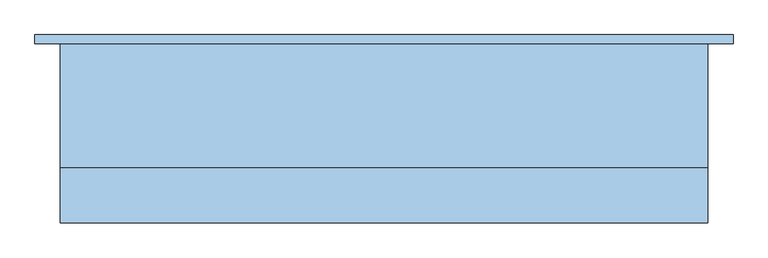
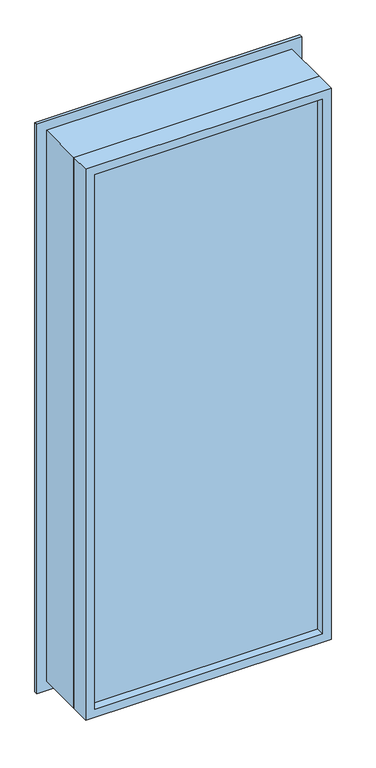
"""IFC4 building model written with IfcOpenShell, lengths in millimetres: window geometry, Vindu FK : 11X26 FK V2."""

import ifcopenshell
import ifcopenshell.guid

model = None  # the IFC model being written
_history = None  # IfcOwnerHistory: only IFC2X3 demands one
_inside = {}  # id of a spatial element -> (the spatial element, [elements in it])
_under = {}  # id of a project, library or spatial element -> (it, [spatial elements below it])
_declared = {}  # id of a project -> (the project, [libraries it declares])
_typed = {}  # id of a type object -> (the type object, [elements of that type])
_made_of = {}  # id of a material, layer set ... -> (it, [elements and type objects made of it])


def new_model(schema):
    """Start an empty IFC model of exactly this schema.

    Asked for "IFC4X3", IfcOpenShell would pick the latest addendum, in which some entities
    have other attributes; the version numbers below select the first issue.
    IFC2X3 requires an IfcOwnerHistory on every rooted entity: one is made here for all.
    """
    global model, _history
    if schema == "IFC4X3":
        model = ifcopenshell.file(schema_version=(4, 3, 0, 0))
    else:
        model = ifcopenshell.file(schema=schema)
    _inside.clear()
    _under.clear()
    _declared.clear()
    _typed.clear()
    _made_of.clear()
    _history = None
    if model.schema == "IFC2X3":
        org = make("IfcOrganization", Name="unknown")
        user = make(
            "IfcPersonAndOrganization",
            ThePerson=make("IfcPerson", FamilyName="unknown"),
            TheOrganization=org,
        )
        app = make(
            "IfcApplication",
            ApplicationDeveloper=org,
            Version="unknown",
            ApplicationFullName="unknown",
            ApplicationIdentifier="unknown",
        )
        _history = make(
            "IfcOwnerHistory",
            OwningUser=user,
            OwningApplication=app,
            ChangeAction="ADDED",
            CreationDate=0,
        )
    return model


def make(cls, **values):
    """One entity of the class cls with the attributes given. An attribute that is None is left unset."""
    return model.create_entity(
        cls, **{name: value for name, value in values.items() if value is not None}
    )


def rooted(cls, **values):
    """An entity with a GlobalId (a new one), such as an element, a storey or a relation."""
    return make(cls, GlobalId=ifcopenshell.guid.new(), OwnerHistory=_history, **values)


def si_unit(unit_type, name, prefix=None):
    """IfcSIUnit, for example si_unit("LENGTHUNIT", "METRE", prefix="MILLI")."""
    return make("IfcSIUnit", UnitType=unit_type, Prefix=prefix, Name=name)


def assignment(units):
    """IfcUnitAssignment: the units of a project."""
    return None if units is None else make("IfcUnitAssignment", Units=units)


def point(xyz):
    """IfcCartesianPoint."""
    return None if xyz is None else make("IfcCartesianPoint", Coordinates=xyz)


def direction(xyz):
    """IfcDirection."""
    return None if xyz is None else make("IfcDirection", DirectionRatios=xyz)


def frame(location, z_axis=None, x_axis=None):
    """IfcAxis2Placement3D, a coordinate frame: its origin and axes. An axis left out is left unset."""
    return make(
        "IfcAxis2Placement3D",
        Location=point(location),
        Axis=direction(z_axis),
        RefDirection=direction(x_axis),
    )


def origin():
    """The frame at (0, 0, 0) with its axes left unset."""
    return frame((0.0, 0.0, 0.0))


def place(relative_to, where):
    """IfcLocalPlacement: puts the frame where relative to a parent placement (None: the world)."""
    return make(
        "IfcLocalPlacement", PlacementRelTo=relative_to, RelativePlacement=where
    )


def context(
    kind, dimensions, precision=None, world=None, true_north=None, identifier=None
):
    """IfcGeometricRepresentationContext, for example the 3D "Model" context."""
    return make(
        "IfcGeometricRepresentationContext",
        ContextIdentifier=identifier,
        ContextType=kind,
        CoordinateSpaceDimension=dimensions,
        Precision=precision,
        WorldCoordinateSystem=world,
        TrueNorth=true_north,
    )


def project(units=None, contexts=None):
    """IfcProject with its units and contexts."""
    return rooted(
        "IfcProject",
        Name="project",
        RepresentationContexts=contexts,
        UnitsInContext=assignment(units),
    )


def spatial(cls, under=None, at=None, **own):
    """A site, building, storey or space (cls), placed at a placement, below another one or the project."""
    s = rooted(cls, ObjectPlacement=at, **own)
    if under is not None:
        _under.setdefault(under.id(), (under, []))[1].append(s)
    return s


def polyline(points):
    """IfcPolyline through the points."""
    return make("IfcPolyline", Points=[point(p) for p in points])


def outline(outer, holes=None, kind="AREA"):
    """IfcArbitraryClosedProfileDef: a profile drawn as a closed curve; with holes, ...WithVoids."""
    if holes is None:
        return make("IfcArbitraryClosedProfileDef", ProfileType=kind, OuterCurve=outer)
    return make(
        "IfcArbitraryProfileDefWithVoids",
        ProfileType=kind,
        OuterCurve=outer,
        InnerCurves=holes,
    )


def extrude(swept, where, along, depth):
    """IfcExtrudedAreaSolid: the profile swept, set in the frame where, extruded along a direction by depth."""
    return make(
        "IfcExtrudedAreaSolid",
        SweptArea=swept,
        Position=where,
        ExtrudedDirection=direction(along),
        Depth=depth,
    )


def faces_of(points, faces, orient=None, outer=None):
    """IfcFace entities. A face is a list of loops; a loop is a list of indices into points, from 0.

    orient and outer hold one flag for each loop. By default every Orientation is true, the
    first loop of a face is its IfcFaceOuterBound and the others are IfcFaceBound.
    """
    made = []
    for i, loops in enumerate(faces):
        bounds = []
        for j, loop in enumerate(loops):
            is_outer = j == 0 if outer is None else outer[i][j]
            bounds.append(
                make(
                    "IfcFaceOuterBound" if is_outer else "IfcFaceBound",
                    Bound=make("IfcPolyLoop", Polygon=[points[k] for k in loop]),
                    Orientation=True if orient is None else orient[i][j],
                )
            )
        made.append(make("IfcFace", Bounds=bounds))
    return made


def faceted_brep(points, faces, orient=None, outer=None, voids=None):
    """IfcFacetedBrep: a solid bounded by flat faces; with voids (closed shells), ...WithVoids."""
    shared = [point(p) for p in points]
    hull = make("IfcClosedShell", CfsFaces=faces_of(shared, faces, orient, outer))
    if voids is None:
        return make("IfcFacetedBrep", Outer=hull)
    return make(
        "IfcFacetedBrepWithVoids",
        Outer=hull,
        Voids=[
            make(cls, CfsFaces=faces_of(shared, fs, o, b)) for cls, fs, o, b in voids
        ],
    )


def shape(context_of_items, identifier, shape_type, items):
    """IfcShapeRepresentation: the items that make up one representation, for example the "Body"."""
    return make(
        "IfcShapeRepresentation",
        ContextOfItems=context_of_items,
        RepresentationIdentifier=identifier,
        RepresentationType=shape_type,
        Items=items,
    )


def source(mapping_origin, context_of_items, identifier, shape_type, items):
    """IfcRepresentationMap: a shape defined once, which mapped items show again and again."""
    return make(
        "IfcRepresentationMap",
        MappingOrigin=mapping_origin,
        MappedRepresentation=shape(context_of_items, identifier, shape_type, items),
    )


def transform(
    local_origin,
    x_axis=None,
    y_axis=None,
    z_axis=None,
    scale=None,
    scale2=None,
    scale3=None,
    uniform=True,
):
    """IfcCartesianTransformationOperator3D, or its non-uniform kind. x_axis, y_axis, z_axis: its Axis1, 2, 3."""
    if uniform:
        return make(
            "IfcCartesianTransformationOperator3D",
            Axis1=direction(x_axis),
            Axis2=direction(y_axis),
            LocalOrigin=point(local_origin),
            Scale=scale,
            Axis3=direction(z_axis),
        )
    return make(
        "IfcCartesianTransformationOperator3DnonUniform",
        Axis1=direction(x_axis),
        Axis2=direction(y_axis),
        LocalOrigin=point(local_origin),
        Scale=scale,
        Axis3=direction(z_axis),
        Scale2=scale2,
        Scale3=scale3,
    )


def mapped(mapping_source, mapping_target):
    """IfcMappedItem: shows the shape of a source again, moved by a transform."""
    return make(
        "IfcMappedItem", MappingSource=mapping_source, MappingTarget=mapping_target
    )


def made_of(thing, what):
    """Note that an element or type object is made of a material, layer set ...; save() writes the relation."""
    if what is not None:
        _made_of.setdefault(what.id(), (what, []))[1].append(thing)
    return thing


def element(
    cls,
    number,
    at=None,
    inside=None,
    cuts=None,
    type_object=None,
    material=None,
    context=None,
    identifier="Body",
    shape_type=None,
    held_by="IfcProductDefinitionShape",
    body=None,
    shapes=None,
    **own,
):
    """One element of the class cls, such as IfcWall. Its Tag is "e" and its number.

    at: its placement. inside: the storey or other place that contains it. cuts: it is an
    opening in that element (IfcRelVoidsElement). A single representation is given by context,
    identifier, shape_type and body (its items); several are given by shapes. held_by: the class
    of the entity that holds the representations. save() writes the other relations.
    """
    e = rooted(cls, Tag="e%d" % number, ObjectPlacement=at, **own)
    if body is not None:
        shapes = [shape(context, identifier, shape_type, body)]
    if shapes is not None:
        e.Representation = make(held_by, Representations=shapes)
    if inside is not None:
        _inside.setdefault(inside.id(), (inside, []))[1].append(e)
    if cuts is not None:
        rooted(
            "IfcRelVoidsElement", RelatingBuildingElement=cuts, RelatedOpeningElement=e
        )
    if type_object is not None:
        _typed.setdefault(type_object.id(), (type_object, []))[1].append(e)
    return made_of(e, material)


def aggregate(whole, parts):
    """IfcRelAggregates: a whole, such as a stair, and the parts it consists of."""
    return rooted("IfcRelAggregates", RelatingObject=whole, RelatedObjects=parts)


def save(model, path):
    """Write the relations noted so far, then the file.

    IfcRelAggregates (storeys below a building ...), IfcRelContainedInSpatialStructure (elements
    in a storey), IfcRelDefinesByType, IfcRelAssociatesMaterial and IfcRelDeclares: one each for
    every whole, place, type object, material and project.
    """
    for whole, parts in _under.values():
        aggregate(whole, parts)
    for where, things in _inside.values():
        rooted(
            "IfcRelContainedInSpatialStructure",
            RelatedElements=things,
            RelatingStructure=where,
        )
    for kind, things in _typed.values():
        rooted("IfcRelDefinesByType", RelatedObjects=things, RelatingType=kind)
    for what, things in _made_of.values():
        rooted("IfcRelAssociatesMaterial", RelatedObjects=things, RelatingMaterial=what)
    for by, libraries in _declared.values():
        rooted("IfcRelDeclares", RelatingContext=by, RelatedDefinitions=libraries)
    model.write(path)


def window_3f70d9f7(model_context):
    return source(origin(), model_context, "Body", "SolidModel", [
        extrude(outline(polyline([(-506.0, -94.0), (-506.0, -70.0), (506.0, -70.0), (506.0, -94.0), (-506.0, -94.0)])), frame((0.0, 0.0, 929.0), z_axis=(0.0, 0.0, 1.0), x_axis=(1.0, 0.0, 0.0)), (0.0, 0.0, 1.0), 2512.0),
        faceted_brep([(-545.0, -130.0, 890.0), (-545.0, -130.0, 3480.0), (-545.0, -38.0, 3480.0), (-545.0, -38.0, 890.0), (-506.0, -70.0, 929.0), (-506.0, -70.0, 3441.0), (-506.0, -130.0, 3441.0), (-506.0, -130.0, 929.0), (-488.0, -38.0, 947.0), (-488.0, -38.0, 3423.0), (-488.0, -70.0, 3423.0), (-488.0, -70.0, 947.0), (545.0, -130.0, 3480.0), (545.0, -38.0, 3480.0), (506.0, -70.0, 3441.0), (506.0, -130.0, 3441.0), (488.0, -38.0, 3423.0), (488.0, -70.0, 3423.0), (545.0, -130.0, 890.0), (545.0, -38.0, 890.0), (506.0, -70.0, 929.0), (506.0, -130.0, 929.0), (488.0, -38.0, 947.0), (488.0, -70.0, 947.0)], [[[0, 1, 2, 3]], [[4, 5, 6, 7]], [[8, 9, 10, 11]], [[1, 12, 13, 2]], [[5, 14, 15, 6]], [[9, 16, 17, 10]], [[12, 18, 19, 13]], [[14, 20, 21, 15]], [[16, 22, 23, 17]], [[18, 0, 3, 19]], [[1, 0, 18, 12], [7, 6, 15, 21]], [[20, 4, 7, 21]], [[5, 4, 20, 14], [11, 10, 17, 23]], [[22, 8, 11, 23]], [[3, 2, 13, 19], [9, 8, 22, 16]]]),
        faceted_brep([(-545.0, 172.0, 890.0), (545.0, 172.0, 890.0), (545.0, -38.0, 890.0), (-545.0, -38.0, 890.0), (545.0, 172.0, 3480.0), (545.0, -38.0, 3480.0), (-545.0, -38.0, 3480.0), (530.0, -38.0, 3465.0), (530.0, -38.0, 905.0), (-530.0, -38.0, 905.0), (-530.0, -38.0, 3465.0), (588.0, 172.0, 847.0), (588.0, 172.0, 3523.0), (-588.0, 172.0, 3523.0), (-588.0, 172.0, 847.0), (-545.0, 172.0, 3480.0), (-588.0, 187.0, 847.0), (588.0, 187.0, 847.0), (588.0, 187.0, 3523.0), (-588.0, 187.0, 3523.0), (530.0, 187.0, 905.0), (530.0, 187.0, 3465.0), (-530.0, 187.0, 3465.0), (-530.0, 187.0, 905.0)], [[[0, 1, 2, 3]], [[1, 4, 5, 2]], [[2, 5, 6, 3], [7, 8, 9, 10]], [[11, 12, 13, 14], [4, 1, 0, 15]], [[16, 17, 11, 14]], [[17, 18, 12, 11]], [[18, 17, 16, 19], [20, 21, 22, 23]], [[9, 8, 20, 23]], [[8, 7, 21, 20]], [[15, 0, 3, 6]], [[19, 16, 14, 13]], [[10, 9, 23, 22]], [[4, 15, 6, 5]], [[18, 19, 13, 12]], [[7, 10, 22, 21]]]),
    ])


if __name__ == "__main__":
    model = new_model("IFC4")
    model_context = context("Model", 3, world=origin())
    ifc_project = project(units=[si_unit("LENGTHUNIT", "METRE", prefix="MILLI")], contexts=[model_context])
    site = spatial("IfcSite", under=ifc_project)
    building = spatial("IfcBuilding", under=site)
    placement = place(None, origin())
    window_shape = window_3f70d9f7(model_context)
    element("IfcWindow", 1, ObjectType="Vindu FK : 11X26 FK V2", at=placement, inside=building, context=model_context, shape_type="MappedRepresentation", body=[
        mapped(window_shape, transform((0.0, 0.0, 0.0), x_axis=(1.0, 0.0, 0.0), y_axis=(0.0, 1.0, 0.0), z_axis=(0.0, 0.0, 1.0))),
    ])
    save(model, "model.ifc")
